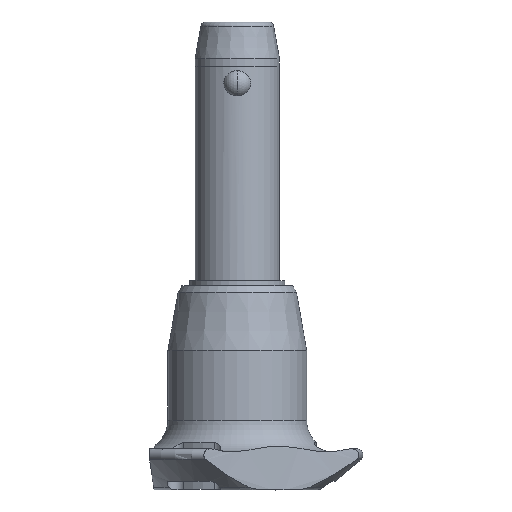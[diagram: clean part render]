
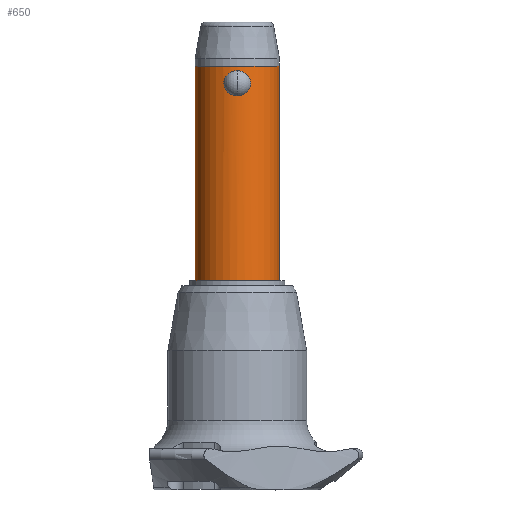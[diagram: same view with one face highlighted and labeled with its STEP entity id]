
A CAD part, front view. The second image highlights one B-rep face of the part: STEP entity #650.
In plain terms, the highlighted cylindrical face has radius 8 mm (diameter 16 mm), a partial arc.
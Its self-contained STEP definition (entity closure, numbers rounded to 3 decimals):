
#13 = DIRECTION ( 'NONE',  ( 0., 0., 1. ) ) ;
#17 = CARTESIAN_POINT ( 'NONE',  ( -1.252, -7.903, 4.479 ) ) ;
#38 = LINE ( 'NONE', #1206, #2844 ) ;
#56 = DIRECTION ( 'NONE',  ( 1., 0., 0. ) ) ;
#134 = ORIENTED_EDGE ( 'NONE', *, *, #1727, .T. ) ;
#152 = CARTESIAN_POINT ( 'NONE',  ( 0.164, -8., 4.775 ) ) ;
#166 = CARTESIAN_POINT ( 'NONE',  ( 2.408, -7.629, 1.586 ) ) ;
#192 = CARTESIAN_POINT ( 'NONE',  ( 1.529, -7.854, 0.463 ) ) ;
#197 = DIRECTION ( 'NONE',  ( 0., 0., 1. ) ) ;
#263 = CARTESIAN_POINT ( 'NONE',  ( 0., -8., 4.775 ) ) ;
#294 = CARTESIAN_POINT ( 'NONE',  ( -2.211, -7.69, 1.148 ) ) ;
#341 = CARTESIAN_POINT ( 'NONE',  ( 0., 0., -35. ) ) ;
#391 = CARTESIAN_POINT ( 'NONE',  ( 2.528, -7.59, 2.058 ) ) ;
#457 = CARTESIAN_POINT ( 'NONE',  ( -2.546, -7.584, 2.553 ) ) ;
#461 = EDGE_LOOP ( 'NONE', ( #1128, #1491 ) ) ;
#470 = CARTESIAN_POINT ( 'NONE',  ( -8., 0., -35. ) ) ;
#486 = CARTESIAN_POINT ( 'NONE',  ( -2.003, -7.746, 3.882 ) ) ;
#502 = CARTESIAN_POINT ( 'NONE',  ( -0.164, -8., 4.775 ) ) ;
#516 = ORIENTED_EDGE ( 'NONE', *, *, #2094, .F. ) ;
#519 = CARTESIAN_POINT ( 'NONE',  ( -1.896, -7.773, 4.001 ) ) ;
#557 = VERTEX_POINT ( 'NONE', #2268 ) ;
#599 = AXIS2_PLACEMENT_3D ( 'NONE', #1898, #2613, #56 ) ;
#644 = CARTESIAN_POINT ( 'NONE',  ( 0., -8., 0. ) ) ;
#645 = LINE ( 'NONE', #470, #1974 ) ;
#646 = CIRCLE ( 'NONE', #1217, 8. ) ;
#650 = ADVANCED_FACE ( 'NONE', ( #990, #1706 ), #1478, .T. ) ;
#665 = EDGE_CURVE ( 'NONE', #1673, #2546, #1546, .T. ) ;
#715 = CARTESIAN_POINT ( 'NONE',  ( -2.529, -7.59, 2.064 ) ) ;
#721 = CARTESIAN_POINT ( 'NONE',  ( 8., 0., -35. ) ) ;
#728 = CARTESIAN_POINT ( 'NONE',  ( -0.324, -8., 0. ) ) ;
#750 = DIRECTION ( 'NONE',  ( 0., 0., 1. ) ) ;
#835 = CARTESIAN_POINT ( 'NONE',  ( 2.547, -7.584, 2.549 ) ) ;
#848 = CARTESIAN_POINT ( 'NONE',  ( 2.275, -7.67, 1.291 ) ) ;
#870 = VERTEX_POINT ( 'NONE', #2244 ) ;
#903 = CARTESIAN_POINT ( 'NONE',  ( 0., 0., 5.6 ) ) ;
#915 = CARTESIAN_POINT ( 'NONE',  ( -2.547, -7.584, 2.229 ) ) ;
#933 = CARTESIAN_POINT ( 'NONE',  ( -2.461, -7.612, 1.746 ) ) ;
#947 = CARTESIAN_POINT ( 'NONE',  ( -2.529, -7.59, 2.716 ) ) ;
#962 = CARTESIAN_POINT ( 'NONE',  ( -2.276, -7.67, 3.482 ) ) ;
#990 = FACE_OUTER_BOUND ( 'NONE', #2494, .T. ) ;
#1045 = CARTESIAN_POINT ( 'NONE',  ( 0., -8., 4.775 ) ) ;
#1057 = CARTESIAN_POINT ( 'NONE',  ( 2.529, -7.59, 2.71 ) ) ;
#1086 = CARTESIAN_POINT ( 'NONE',  ( 1.108, -7.924, 4.548 ) ) ;
#1100 = CARTESIAN_POINT ( 'NONE',  ( 8., 0., 5.6 ) ) ;
#1128 = ORIENTED_EDGE ( 'NONE', *, *, #2312, .F. ) ;
#1140 = CARTESIAN_POINT ( 'NONE',  ( -0.326, -7.995, 4.761 ) ) ;
#1154 = CARTESIAN_POINT ( 'NONE',  ( -1.527, -7.854, 4.313 ) ) ;
#1200 = CARTESIAN_POINT ( 'NONE',  ( -0.803, -7.961, 4.661 ) ) ;
#1206 = CARTESIAN_POINT ( 'NONE',  ( 8., 0., -35. ) ) ;
#1211 = EDGE_CURVE ( 'NONE', #2047, #870, #1956, .T. ) ;
#1217 = AXIS2_PLACEMENT_3D ( 'NONE', #903, #197, #1345 ) ;
#1271 = CARTESIAN_POINT ( 'NONE',  ( 2.546, -7.584, 2.22 ) ) ;
#1286 = CARTESIAN_POINT ( 'NONE',  ( 1.529, -7.854, 4.312 ) ) ;
#1296 = CARTESIAN_POINT ( 'NONE',  ( 2.016, -7.746, 3.891 ) ) ;
#1311 = CARTESIAN_POINT ( 'NONE',  ( 1.253, -7.903, 4.478 ) ) ;
#1345 = DIRECTION ( 'NONE',  ( 1., 0., 0. ) ) ;
#1363 = CARTESIAN_POINT ( 'NONE',  ( -1.659, -7.827, 0.559 ) ) ;
#1407 = CARTESIAN_POINT ( 'NONE',  ( -2.411, -7.628, 1.592 ) ) ;
#1425 = CARTESIAN_POINT ( 'NONE',  ( -2.193, -7.694, 3.623 ) ) ;
#1478 = CYLINDRICAL_SURFACE ( 'NONE', #2935, 8. ) ;
#1491 = ORIENTED_EDGE ( 'NONE', *, *, #1211, .F. ) ;
#1546 = CIRCLE ( 'NONE', #599, 8. ) ;
#1557 = CARTESIAN_POINT ( 'NONE',  ( 1.66, -7.827, 4.215 ) ) ;
#1620 = CARTESIAN_POINT ( 'NONE',  ( 0., -8., 0. ) ) ;
#1639 = CARTESIAN_POINT ( 'NONE',  ( -1.254, -7.902, 0.297 ) ) ;
#1653 = CARTESIAN_POINT ( 'NONE',  ( -1.658, -7.827, 4.216 ) ) ;
#1673 = VERTEX_POINT ( 'NONE', #721 ) ;
#1690 = DIRECTION ( 'NONE',  ( 1., 0., 0. ) ) ;
#1706 = FACE_BOUND ( 'NONE', #461, .T. ) ;
#1727 = EDGE_CURVE ( 'NONE', #1673, #2128, #38, .T. ) ;
#1754 = CARTESIAN_POINT ( 'NONE',  ( 2.41, -7.629, 3.184 ) ) ;
#1766 = CARTESIAN_POINT ( 'NONE',  ( 2.461, -7.612, 3.027 ) ) ;
#1816 = ORIENTED_EDGE ( 'NONE', *, *, #2780, .F. ) ;
#1840 = CARTESIAN_POINT ( 'NONE',  ( -2.408, -7.629, 3.189 ) ) ;
#1856 = CARTESIAN_POINT ( 'NONE',  ( -2.016, -7.746, 0.883 ) ) ;
#1898 = CARTESIAN_POINT ( 'NONE',  ( 0., 0., -35. ) ) ;
#1956 = B_SPLINE_CURVE_WITH_KNOTS ( 'NONE', 3,
 ( #644, #2906, #2218, #2931, #2661, #192, #2415, #2460, #2893, #2248, #848, #166, #2436, #391, #1271, #835, #1057, #1766, #1754, #2004, #1296, #1557, #1286, #1311, #1086, #2920, #2199, #2448, #152, #1045 ),
 .UNSPECIFIED., .F., .F.,
 ( 4, 2, 2, 2, 2, 2, 2, 2, 2, 2, 2, 2, 2, 2, 4 ),
 ( 0.008, 0.009, 0.009, 0.01, 0.01, 0.011, 0.011, 0.012, 0.012, 0.013, 0.014, 0.014, 0.015, 0.015, 0.016 ),
 .UNSPECIFIED. ) ;
#1974 = VECTOR ( 'NONE', #13, 1000. ) ;
#2004 = CARTESIAN_POINT ( 'NONE',  ( 2.211, -7.69, 3.626 ) ) ;
#2047 = VERTEX_POINT ( 'NONE', #1620 ) ;
#2072 = CARTESIAN_POINT ( 'NONE',  ( -2.459, -7.613, 3.036 ) ) ;
#2094 = EDGE_CURVE ( 'NONE', #2546, #557, #645, .T. ) ;
#2102 = B_SPLINE_CURVE_WITH_KNOTS ( 'NONE', 3,
 ( #263, #502, #1140, #2847, #1200, #2342, #17, #1154, #1653, #519, #486, #1425, #962, #1840, #2072, #947, #457, #915, #715, #933, #1407, #294, #1856, #1363, #2529, #1639, #2784, #2122, #728, #2328 ),
 .UNSPECIFIED., .F., .F.,
 ( 4, 2, 2, 2, 2, 2, 2, 2, 2, 2, 2, 2, 2, 2, 4 ),
 ( 0., 0., 0.001, 0.001, 0.002, 0.002, 0.003, 0.003, 0.004, 0.004, 0.005, 0.006, 0.006, 0.007, 0.008 ),
 .UNSPECIFIED. ) ;
#2122 = CARTESIAN_POINT ( 'NONE',  ( -0.652, -7.979, 0.058 ) ) ;
#2128 = VERTEX_POINT ( 'NONE', #1100 ) ;
#2199 = CARTESIAN_POINT ( 'NONE',  ( 0.645, -7.976, 4.704 ) ) ;
#2218 = CARTESIAN_POINT ( 'NONE',  ( 0.652, -7.979, 0.058 ) ) ;
#2244 = CARTESIAN_POINT ( 'NONE',  ( 0., -8., 4.775 ) ) ;
#2248 = CARTESIAN_POINT ( 'NONE',  ( 2.194, -7.694, 1.153 ) ) ;
#2268 = CARTESIAN_POINT ( 'NONE',  ( -8., 0., 5.6 ) ) ;
#2312 = EDGE_CURVE ( 'NONE', #870, #2047, #2102, .T. ) ;
#2328 = CARTESIAN_POINT ( 'NONE',  ( 0., -8., 0. ) ) ;
#2342 = CARTESIAN_POINT ( 'NONE',  ( -1.107, -7.924, 4.548 ) ) ;
#2415 = CARTESIAN_POINT ( 'NONE',  ( 1.657, -7.827, 0.558 ) ) ;
#2436 = CARTESIAN_POINT ( 'NONE',  ( 2.46, -7.613, 1.742 ) ) ;
#2440 = ORIENTED_EDGE ( 'NONE', *, *, #665, .F. ) ;
#2448 = CARTESIAN_POINT ( 'NONE',  ( 0.326, -7.995, 4.761 ) ) ;
#2460 = CARTESIAN_POINT ( 'NONE',  ( 1.894, -7.773, 0.773 ) ) ;
#2494 = EDGE_LOOP ( 'NONE', ( #516, #2440, #134, #1816 ) ) ;
#2529 = CARTESIAN_POINT ( 'NONE',  ( -1.53, -7.854, 0.464 ) ) ;
#2546 = VERTEX_POINT ( 'NONE', #2690 ) ;
#2613 = DIRECTION ( 'NONE',  ( 0., 0., -1. ) ) ;
#2661 = CARTESIAN_POINT ( 'NONE',  ( 1.252, -7.903, 0.296 ) ) ;
#2690 = CARTESIAN_POINT ( 'NONE',  ( -8., 0., -35. ) ) ;
#2780 = EDGE_CURVE ( 'NONE', #557, #2128, #646, .T. ) ;
#2784 = CARTESIAN_POINT ( 'NONE',  ( -1.106, -7.925, 0.226 ) ) ;
#2834 = DIRECTION ( 'NONE',  ( 0., 0., 1. ) ) ;
#2844 = VECTOR ( 'NONE', #750, 1000. ) ;
#2847 = CARTESIAN_POINT ( 'NONE',  ( -0.645, -7.976, 4.704 ) ) ;
#2893 = CARTESIAN_POINT ( 'NONE',  ( 2.004, -7.746, 0.894 ) ) ;
#2906 = CARTESIAN_POINT ( 'NONE',  ( 0.324, -8., 0. ) ) ;
#2920 = CARTESIAN_POINT ( 'NONE',  ( 0.804, -7.961, 4.661 ) ) ;
#2931 = CARTESIAN_POINT ( 'NONE',  ( 1.105, -7.925, 0.226 ) ) ;
#2935 = AXIS2_PLACEMENT_3D ( 'NONE', #341, #2834, #1690 ) ;
